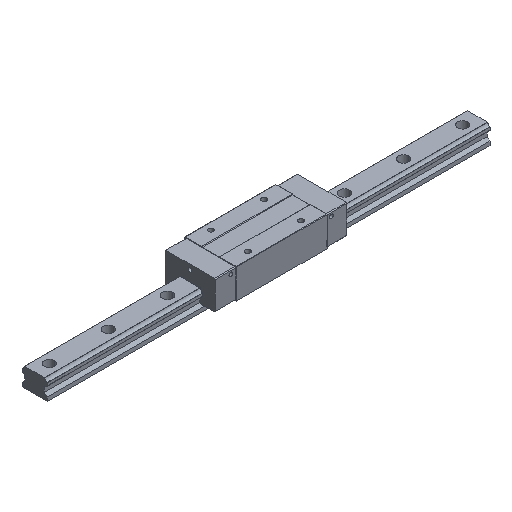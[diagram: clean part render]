
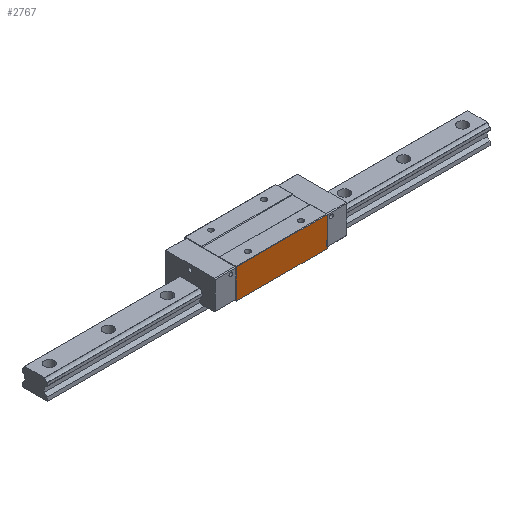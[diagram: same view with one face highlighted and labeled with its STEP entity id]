
A CAD part, isometric view. The second image highlights one B-rep face of the part: STEP entity #2767.
In plain terms, the highlighted planar face has unit normal (0, -1, 0).
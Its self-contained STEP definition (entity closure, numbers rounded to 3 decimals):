
#133 = CARTESIAN_POINT ( 'NONE',  ( 61.5, -35., 47.5 ) ) ;
#254 = VERTEX_POINT ( 'NONE', #2256 ) ;
#469 = FACE_OUTER_BOUND ( 'NONE', #5480, .T. ) ;
#525 = PLANE ( 'NONE',  #3394 ) ;
#738 = DIRECTION ( 'NONE',  ( 0., 0., -1. ) ) ;
#1460 = CARTESIAN_POINT ( 'NONE',  ( -61.5, -35., 48. ) ) ;
#1663 = EDGE_CURVE ( 'NONE', #2001, #4832, #5386, .T. ) ;
#1774 = DIRECTION ( 'NONE',  ( -1., 0., 0. ) ) ;
#1916 = EDGE_CURVE ( 'NONE', #254, #4832, #3475, .T. ) ;
#1934 = EDGE_CURVE ( 'NONE', #2695, #2001, #3027, .T. ) ;
#1984 = ORIENTED_EDGE ( 'NONE', *, *, #3901, .F. ) ;
#2001 = VERTEX_POINT ( 'NONE', #3195 ) ;
#2198 = CARTESIAN_POINT ( 'NONE',  ( 61.5, -35., 47.5 ) ) ;
#2205 = DIRECTION ( 'NONE',  ( 1., 0., 0. ) ) ;
#2256 = CARTESIAN_POINT ( 'NONE',  ( 61.5, -35., 7.5 ) ) ;
#2260 = DIRECTION ( 'NONE',  ( 0., 1., 0. ) ) ;
#2512 = LINE ( 'NONE', #3366, #4302 ) ;
#2596 = VECTOR ( 'NONE', #3260, 1000. ) ;
#2646 = CARTESIAN_POINT ( 'NONE',  ( -61.5, -35., 7.5 ) ) ;
#2695 = VERTEX_POINT ( 'NONE', #133 ) ;
#2767 = ADVANCED_FACE ( 'NONE', ( #469 ), #525, .F. ) ;
#2934 = ORIENTED_EDGE ( 'NONE', *, *, #1663, .T. ) ;
#3027 = LINE ( 'NONE', #2198, #5057 ) ;
#3062 = CARTESIAN_POINT ( 'NONE',  ( 61.5, -35., 7.5 ) ) ;
#3195 = CARTESIAN_POINT ( 'NONE',  ( -61.5, -35., 47.5 ) ) ;
#3260 = DIRECTION ( 'NONE',  ( 0., 0., -1. ) ) ;
#3366 = CARTESIAN_POINT ( 'NONE',  ( 61.5, -35., 48. ) ) ;
#3394 = AXIS2_PLACEMENT_3D ( 'NONE', #4378, #2260, #2205 ) ;
#3475 = LINE ( 'NONE', #3062, #5593 ) ;
#3901 = EDGE_CURVE ( 'NONE', #2695, #254, #2512, .T. ) ;
#4302 = VECTOR ( 'NONE', #738, 1000. ) ;
#4378 = CARTESIAN_POINT ( 'NONE',  ( 61.5, -35., 48. ) ) ;
#4832 = VERTEX_POINT ( 'NONE', #2646 ) ;
#5057 = VECTOR ( 'NONE', #1774, 1000. ) ;
#5188 = DIRECTION ( 'NONE',  ( -1., 0., 0. ) ) ;
#5386 = LINE ( 'NONE', #1460, #2596 ) ;
#5480 = EDGE_LOOP ( 'NONE', ( #1984, #5507, #2934, #5617 ) ) ;
#5507 = ORIENTED_EDGE ( 'NONE', *, *, #1934, .T. ) ;
#5593 = VECTOR ( 'NONE', #5188, 1000. ) ;
#5617 = ORIENTED_EDGE ( 'NONE', *, *, #1916, .F. ) ;
